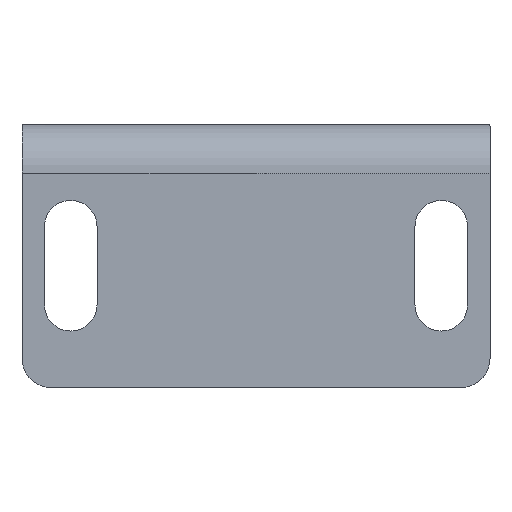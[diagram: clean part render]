
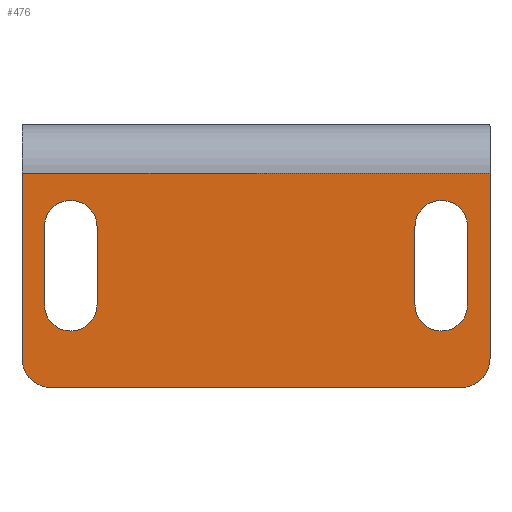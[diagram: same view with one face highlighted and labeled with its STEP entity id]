
A CAD part, left-side view. The second image highlights one B-rep face of the part: STEP entity #476.
In plain terms, the highlighted planar face has unit normal (-1, 0, 0).
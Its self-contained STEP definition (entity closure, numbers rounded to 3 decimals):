
#13=DIRECTION('',(0.,0.,1.));
#14=VECTOR('',#13,8.);
#15=CARTESIAN_POINT('',(0.,21.7,-18.5));
#16=LINE('',#15,#14);
#17=CARTESIAN_POINT('',(0.,19.,-18.5));
#18=DIRECTION('',(1.,0.,0.));
#19=DIRECTION('',(0.,-1.,0.));
#20=AXIS2_PLACEMENT_3D('',#17,#18,#19);
#22=DIRECTION('',(0.,0.,-1.));
#23=VECTOR('',#22,8.);
#24=CARTESIAN_POINT('',(0.,16.3,-10.5));
#25=LINE('',#24,#23);
#26=CARTESIAN_POINT('',(0.,19.,-10.5));
#27=DIRECTION('',(1.,0.,0.));
#28=DIRECTION('',(0.,1.,0.));
#29=AXIS2_PLACEMENT_3D('',#26,#27,#28);
#31=DIRECTION('',(0.,0.,1.));
#32=VECTOR('',#31,8.);
#33=CARTESIAN_POINT('',(0.,-16.3,-18.5));
#34=LINE('',#33,#32);
#35=CARTESIAN_POINT('',(0.,-19.,-18.5));
#36=DIRECTION('',(1.,0.,0.));
#37=DIRECTION('',(0.,-1.,0.));
#38=AXIS2_PLACEMENT_3D('',#35,#36,#37);
#40=DIRECTION('',(0.,0.,-1.));
#41=VECTOR('',#40,8.);
#42=CARTESIAN_POINT('',(0.,-21.7,-10.5));
#43=LINE('',#42,#41);
#44=CARTESIAN_POINT('',(0.,-19.,-10.5));
#45=DIRECTION('',(1.,0.,0.));
#46=DIRECTION('',(0.,1.,0.));
#47=AXIS2_PLACEMENT_3D('',#44,#45,#46);
#49=CARTESIAN_POINT('',(0.,21.,-24.));
#50=DIRECTION('',(-1.,0.,0.));
#51=DIRECTION('',(0.,1.,0.));
#52=AXIS2_PLACEMENT_3D('',#49,#50,#51);
#54=DIRECTION('',(0.,0.,1.));
#55=VECTOR('',#54,19.);
#56=CARTESIAN_POINT('',(0.,24.,-24.));
#57=LINE('',#56,#55);
#58=DIRECTION('',(0.,1.,0.));
#59=VECTOR('',#58,48.);
#60=CARTESIAN_POINT('',(0.,-24.,-5.));
#61=LINE('',#60,#59);
#62=DIRECTION('',(0.,0.,-1.));
#63=VECTOR('',#62,19.);
#64=CARTESIAN_POINT('',(0.,-24.,-5.));
#65=LINE('',#64,#63);
#66=CARTESIAN_POINT('',(0.,-21.,-24.));
#67=DIRECTION('',(-1.,0.,0.));
#68=DIRECTION('',(0.,0.,-1.));
#69=AXIS2_PLACEMENT_3D('',#66,#67,#68);
#71=DIRECTION('',(0.,1.,0.));
#72=VECTOR('',#71,42.);
#73=CARTESIAN_POINT('',(0.,-21.,-27.));
#74=LINE('',#73,#72);
#373=CARTESIAN_POINT('',(0.,24.,-5.));
#375=VERTEX_POINT('',#373);
#382=CARTESIAN_POINT('',(0.,-24.,-5.));
#384=VERTEX_POINT('',#382);
#385=CARTESIAN_POINT('',(0.,24.,-24.));
#386=CARTESIAN_POINT('',(0.,21.,-27.));
#387=VERTEX_POINT('',#385);
#388=VERTEX_POINT('',#386);
#393=CARTESIAN_POINT('',(0.,-21.,-27.));
#394=CARTESIAN_POINT('',(0.,-24.,-24.));
#395=VERTEX_POINT('',#393);
#396=VERTEX_POINT('',#394);
#401=CARTESIAN_POINT('',(0.,21.7,-18.5));
#402=CARTESIAN_POINT('',(0.,21.7,-10.5));
#403=VERTEX_POINT('',#401);
#404=VERTEX_POINT('',#402);
#405=CARTESIAN_POINT('',(0.,16.3,-10.5));
#406=VERTEX_POINT('',#405);
#407=CARTESIAN_POINT('',(0.,16.3,-18.5));
#408=VERTEX_POINT('',#407);
#409=CARTESIAN_POINT('',(0.,-16.3,-18.5));
#410=CARTESIAN_POINT('',(0.,-16.3,-10.5));
#411=VERTEX_POINT('',#409);
#412=VERTEX_POINT('',#410);
#413=CARTESIAN_POINT('',(0.,-21.7,-10.5));
#414=VERTEX_POINT('',#413);
#415=CARTESIAN_POINT('',(0.,-21.7,-18.5));
#416=VERTEX_POINT('',#415);
#437=CARTESIAN_POINT('',(0.,0.,0.));
#438=DIRECTION('',(1.,0.,0.));
#439=DIRECTION('',(0.,-1.,0.));
#440=AXIS2_PLACEMENT_3D('',#437,#438,#439);
#441=PLANE('',#440);
#443=ORIENTED_EDGE('',*,*,#442,.F.);
#445=ORIENTED_EDGE('',*,*,#444,.T.);
#447=ORIENTED_EDGE('',*,*,#446,.F.);
#449=ORIENTED_EDGE('',*,*,#448,.T.);
#451=ORIENTED_EDGE('',*,*,#450,.F.);
#453=ORIENTED_EDGE('',*,*,#452,.T.);
#454=EDGE_LOOP('',(#443,#445,#447,#449,#451,#453));
#455=FACE_OUTER_BOUND('',#454,.F.);
#457=ORIENTED_EDGE('',*,*,#456,.F.);
#459=ORIENTED_EDGE('',*,*,#458,.F.);
#461=ORIENTED_EDGE('',*,*,#460,.F.);
#463=ORIENTED_EDGE('',*,*,#462,.F.);
#464=EDGE_LOOP('',(#457,#459,#461,#463));
#465=FACE_BOUND('',#464,.F.);
#467=ORIENTED_EDGE('',*,*,#466,.F.);
#469=ORIENTED_EDGE('',*,*,#468,.F.);
#471=ORIENTED_EDGE('',*,*,#470,.F.);
#473=ORIENTED_EDGE('',*,*,#472,.F.);
#474=EDGE_LOOP('',(#467,#469,#471,#473));
#475=FACE_BOUND('',#474,.F.);
#476=ADVANCED_FACE('',(#455,#465,#475),#441,.F.);
#21=CIRCLE('',#20,2.7);
#30=CIRCLE('',#29,2.7);
#39=CIRCLE('',#38,2.7);
#48=CIRCLE('',#47,2.7);
#53=CIRCLE('',#52,3.);
#70=CIRCLE('',#69,3.);
#442=EDGE_CURVE('',#387,#388,#53,.T.);
#444=EDGE_CURVE('',#387,#375,#57,.T.);
#446=EDGE_CURVE('',#384,#375,#61,.T.);
#448=EDGE_CURVE('',#384,#396,#65,.T.);
#450=EDGE_CURVE('',#395,#396,#70,.T.);
#452=EDGE_CURVE('',#395,#388,#74,.T.);
#456=EDGE_CURVE('',#411,#412,#34,.T.);
#458=EDGE_CURVE('',#416,#411,#39,.T.);
#460=EDGE_CURVE('',#414,#416,#43,.T.);
#462=EDGE_CURVE('',#412,#414,#48,.T.);
#466=EDGE_CURVE('',#403,#404,#16,.T.);
#468=EDGE_CURVE('',#408,#403,#21,.T.);
#470=EDGE_CURVE('',#406,#408,#25,.T.);
#472=EDGE_CURVE('',#404,#406,#30,.T.);
